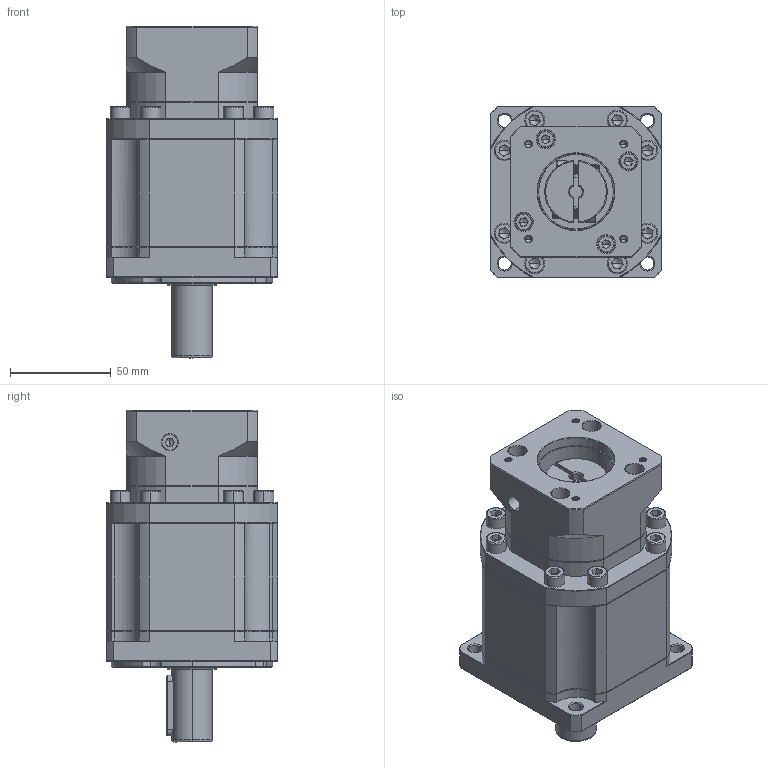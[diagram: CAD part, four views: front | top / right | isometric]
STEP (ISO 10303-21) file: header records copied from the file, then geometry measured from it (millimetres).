
FILE_DESCRIPTION (( 'STEP AP214' ), '1' );
FILE_NAME ('ZB90-D20-L3-6.35-38.1-47.14X47.14-M4.STEP', '2022-05-02T15:08:18', ( '' ), ( 'Microsoft' ), 'SwSTEP 2.0', 'SolidWorks 2016', '' );
FILE_SCHEMA (( 'AUTOMOTIVE_DESIGN' ));
Length unit declared in the file: millimetre
Products named in the file (1): ZB90-D20-L3-6.35-38.1-47.14X47.14-M4
Bounding box: 85 x 85 x 164.5 mm (x, y, z)
Volume: 669511.4 mm3; surface area: 81949.8 mm2
Topology: 6 solids, 6 shells, 2073 faces, 5432 edges, 3450 vertices
Faces by surface type: plane 1005, cylinder 394, bspline 328, cone 324, torus 22
Entity records: 107221 total; most frequent: CARTESIAN_POINT 36033, ORIENTED_EDGE 10772, DIRECTION 8916, EDGE_CURVE 5386, VERTEX_POINT 3450, LINE 3304, VECTOR 3304, AXIS2_PLACEMENT_3D 2806
